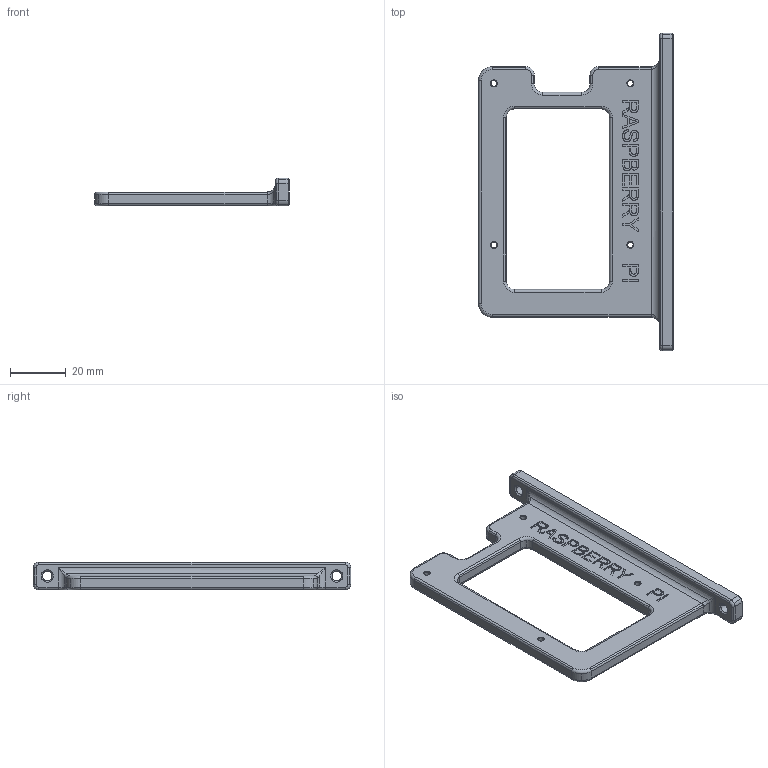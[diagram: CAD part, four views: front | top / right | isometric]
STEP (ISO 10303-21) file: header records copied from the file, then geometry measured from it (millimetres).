
FILE_DESCRIPTION(('STEP AP214'),'1');
FILE_NAME('Raspi5_Platte2_Solo.STP','2024-11-28T09:19:06',(' '),(' '),'Spatial InterOp 3D',' ',' ');
FILE_SCHEMA(('AUTOMOTIVE_DESIGN { 1 0 10303 214 1 1 1 1 }'));
Length unit declared in the file: millimetre
Products named in the file (1): Quader
Bounding box: 70 x 114 x 10 mm (x, y, z)
Volume: 21764.6 mm3; surface area: 11337.9 mm2
Topology: 1 solids, 1 shells, 559 faces, 1522 edges, 982 vertices
Faces by surface type: cylinder 357, plane 142, cone 32, torus 26, bspline 2
Entity records: 18659 total; most frequent: CARTESIAN_POINT 3492, DIRECTION 3408, ORIENTED_EDGE 3040, EDGE_CURVE 1520, AXIS2_PLACEMENT_3D 1330, VERTEX_POINT 982, CIRCLE 764, LINE 748
